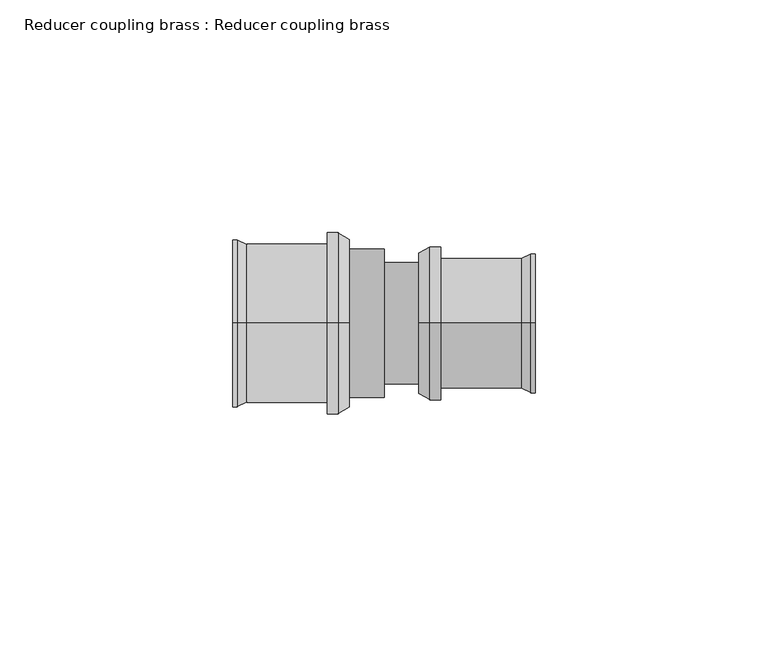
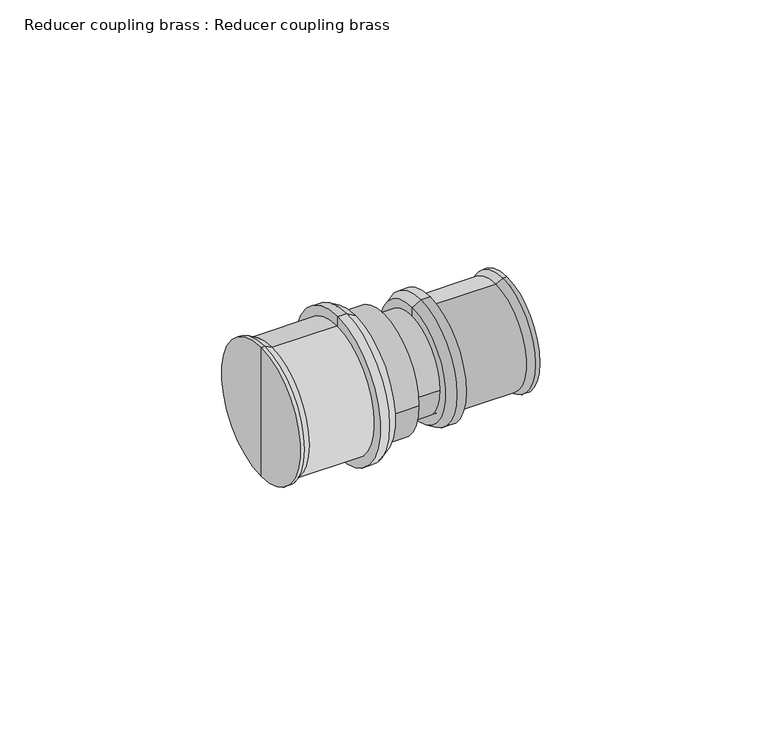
"""IFC4 building model written with IfcOpenShell, lengths in millimetres: pipe fitting geometry, Reducer coupling brass : Reducer coupling brass."""

from ifc_helpers import new_model, si_unit, point, frame, origin, origin_2d, place, context, project, spatial, polyline, circle_curve, trimmed, segment, composite_curve, outline, extrude, source, transform, mapped, element, save
from ifc_brep_helpers import plane_surface, cylinder_surface, revolved_surface, advanced_brep


def reducer_coupling_brass_reducer_coupling_brass_986997fd(model_context):
    return source(origin(), model_context, "Body", "SolidModel", [
        advanced_brep(
        [(22.5, 0.0, 0.0), (22.5, 0.0, 18.1432269), (22.5, 0.0, -18.1432269), (17.8, 0.0, -19.5), (17.8, 0.0, 19.5), (17.8, 0.0, 0.0), (20.15, 0.0, -19.5), (20.15, 0.0, 19.5)],
        [
            (0, 1),
            (1, 2, circle_curve(frame((22.5, 0.0, 0.0), z_axis=(1.0, 0.0, 0.0), x_axis=(0.0, 0.0, 1.0)), 18.1432269)),
            (2, 0),
            (2, 1, circle_curve(frame((22.5, 0.0, 0.0), z_axis=(1.0, 0.0, 0.0), x_axis=(0.0, 0.0, 1.0)), 18.1432269)),
            (3, 4, circle_curve(frame((17.8, 0.0, 0.0), z_axis=(-1.0, 0.0, 0.0), x_axis=(0.0, 0.0, 1.0)), 19.5)),
            (4, 5),
            (5, 3),
            (4, 3, circle_curve(frame((17.8, 0.0, 0.0), z_axis=(-1.0, 0.0, 0.0), x_axis=(0.0, 0.0, 1.0)), 19.5)),
            (6, 7, circle_curve(frame((20.15, 0.0, 0.0), z_axis=(-1.0, 0.0, 0.0), x_axis=(0.0, 0.0, 1.0)), 19.5)),
            (7, 4),
            (3, 6),
            (7, 6, circle_curve(frame((20.15, 0.0, 0.0), z_axis=(-1.0, 0.0, 0.0), x_axis=(0.0, 0.0, 1.0)), 19.5)),
            (1, 7),
            (6, 2),
        ],
        [
            plane_surface(frame((22.5, 0.0, 0.0), z_axis=(1.0, 0.0, 0.0), x_axis=(0.0, 0.0, 1.0))),
            plane_surface(frame((17.8, 0.0, 0.0), z_axis=(-1.0, 0.0, 0.0), x_axis=(0.0, 0.0, 1.0))),
            cylinder_surface(frame((21.5, 0.0, 0.0), z_axis=(1.0, 0.0, 0.0), x_axis=(0.0, 0.0, 1.0)), 19.5),
            revolved_surface(polyline([(20.15, 0.0, 19.5), (22.5, 0.0, 18.1432269)]), (21.5, 0.0, 0.0), (1.0, 0.0, 0.0)),
        ],
        [
            (0, [[1, 2, 3]]),
            (0, [[-3, 4, -1]]),
            (1, [[5, 6, 7]]),
            (1, [[8, -7, -6]]),
            (2, [[9, 10, -5, 11]]),
            (2, [[12, -11, -8, -10]]),
            (3, [[-2, 13, -9, 14]]),
            (3, [[-4, -14, -12, -13]]),
        ],
    ),
        advanced_brep(
        [(17.8, 0.0, -17.0), (17.8, 0.0, 17.0), (0.5, 0.0, 17.0), (0.5, 0.0, -17.0), (-2.5, 0.0, -18.0), (-2.5, 0.0, 18.0), (-2.5, 0.0, 0.0), (17.8, 0.0, 0.0), (-1.5, 0.0, -18.0), (-1.5, 0.0, 18.0)],
        [
            (0, 1, circle_curve(frame((17.8, 0.0, 0.0), z_axis=(-1.0, 0.0, 0.0), x_axis=(0.0, 0.0, 1.0)), 17.0)),
            (1, 2),
            (2, 3, circle_curve(frame((0.5, 0.0, 0.0), z_axis=(1.0, 0.0, 0.0), x_axis=(0.0, 0.0, 1.0)), 17.0)),
            (3, 0),
            (1, 0, circle_curve(frame((17.8, 0.0, 0.0), z_axis=(-1.0, 0.0, 0.0), x_axis=(0.0, 0.0, 1.0)), 17.0)),
            (3, 2, circle_curve(frame((0.5, 0.0, 0.0), z_axis=(1.0, 0.0, 0.0), x_axis=(0.0, 0.0, 1.0)), 17.0)),
            (4, 5, circle_curve(frame((-2.5, 0.0, 0.0), z_axis=(-1.0, 0.0, 0.0), x_axis=(0.0, 0.0, 1.0)), 18.0)),
            (5, 6),
            (6, 4),
            (5, 4, circle_curve(frame((-2.5, 0.0, 0.0), z_axis=(-1.0, 0.0, 0.0), x_axis=(0.0, 0.0, 1.0)), 18.0)),
            (7, 1),
            (0, 7),
            (8, 9, circle_curve(frame((-1.5, 0.0, 0.0), z_axis=(-1.0, 0.0, 0.0), x_axis=(0.0, 0.0, 1.0)), 18.0)),
            (9, 5),
            (4, 8),
            (9, 8, circle_curve(frame((-1.5, 0.0, 0.0), z_axis=(-1.0, 0.0, 0.0), x_axis=(0.0, 0.0, 1.0)), 18.0)),
            (2, 9),
            (8, 3),
        ],
        [
            cylinder_surface(frame((1933.3038476, 0.0, 0.0), z_axis=(1.0, 0.0, 0.0), x_axis=(0.0, 0.0, 1.0)), 17.0),
            plane_surface(frame((-2.5, 0.0, 0.0), z_axis=(-1.0, 0.0, 0.0), x_axis=(0.0, 0.0, 1.0))),
            plane_surface(frame((17.8, 0.0, 0.0), z_axis=(1.0, 0.0, 0.0), x_axis=(0.0, 0.0, 1.0))),
            cylinder_surface(frame((1933.3038476, 0.0, 0.0), z_axis=(1.0, 0.0, 0.0), x_axis=(0.0, 0.0, 1.0)), 18.0),
            revolved_surface(polyline([(-1.5, 0.0, 18.0), (0.5, 0.0, 17.0)]), (1933.3038476, 0.0, 0.0), (1.0, 0.0, 0.0)),
        ],
        [
            (0, [[1, 2, 3, 4]]),
            (0, [[5, -4, 6, -2]]),
            (1, [[7, 8, 9]]),
            (1, [[10, -9, -8]]),
            (2, [[11, -1, 12]]),
            (2, [[-12, -5, -11]]),
            (3, [[13, 14, -7, 15]]),
            (3, [[16, -15, -10, -14]]),
            (4, [[-3, 17, -13, 18]]),
            (4, [[-6, -18, -16, -17]]),
        ],
    ),
        advanced_brep(
        [(37.5, 0.0, 0.0), (37.5, 0.0, -15.1432269), (37.5, 0.0, 15.1432269), (42.2, 0.0, 16.5), (42.2, 0.0, -16.5), (42.2, 0.0, 0.0), (39.85, 0.0, 16.5), (39.85, 0.0, -16.5)],
        [
            (0, 1),
            (1, 2, circle_curve(frame((37.5, 0.0, 0.0), z_axis=(-1.0, 0.0, 0.0), x_axis=(0.0, 0.0, -1.0)), 15.1432269)),
            (2, 0),
            (2, 1, circle_curve(frame((37.5, 0.0, 0.0), z_axis=(-1.0, 0.0, 0.0), x_axis=(0.0, 0.0, -1.0)), 15.1432269)),
            (3, 4, circle_curve(frame((42.2, 0.0, 0.0), z_axis=(1.0, 0.0, 0.0), x_axis=(0.0, 0.0, -1.0)), 16.5)),
            (4, 5),
            (5, 3),
            (4, 3, circle_curve(frame((42.2, 0.0, 0.0), z_axis=(1.0, 0.0, 0.0), x_axis=(0.0, 0.0, -1.0)), 16.5)),
            (6, 7, circle_curve(frame((39.85, 0.0, 0.0), z_axis=(1.0, 0.0, 0.0), x_axis=(0.0, 0.0, -1.0)), 16.5)),
            (7, 4),
            (3, 6),
            (7, 6, circle_curve(frame((39.85, 0.0, 0.0), z_axis=(1.0, 0.0, 0.0), x_axis=(0.0, 0.0, -1.0)), 16.5)),
            (1, 7),
            (6, 2),
        ],
        [
            plane_surface(frame((37.5, 0.0, 0.0), z_axis=(-1.0, 0.0, 0.0), x_axis=(0.0, 0.0, -1.0))),
            plane_surface(frame((42.2, 0.0, 0.0), z_axis=(1.0, 0.0, 0.0), x_axis=(0.0, 0.0, -1.0))),
            cylinder_surface(frame((38.5, 0.0, 0.0), z_axis=(-1.0, 0.0, 0.0), x_axis=(0.0, 0.0, -1.0)), 16.5),
            revolved_surface(polyline([(39.85, 0.0, -16.5), (37.5, 0.0, -15.1432269)]), (38.5, 0.0, 0.0), (-1.0, 0.0, 0.0)),
        ],
        [
            (0, [[1, 2, 3]]),
            (0, [[-3, 4, -1]]),
            (1, [[5, 6, 7]]),
            (1, [[8, -7, -6]]),
            (2, [[9, 10, -5, 11]]),
            (2, [[12, -11, -8, -10]]),
            (3, [[-2, 13, -9, 14]]),
            (3, [[-4, -14, -12, -13]]),
        ],
    ),
        advanced_brep(
        [(42.2, 0.0, 14.0), (42.2, 0.0, -14.0), (59.5, 0.0, -14.0), (59.5, 0.0, 14.0), (62.5, 0.0, 15.0), (62.5, 0.0, -15.0), (62.5, 0.0, 0.0), (42.2, 0.0, 0.0), (61.5, 0.0, 15.0), (61.5, 0.0, -15.0)],
        [
            (0, 1, circle_curve(frame((42.2, 0.0, 0.0), z_axis=(1.0, 0.0, 0.0), x_axis=(0.0, 0.0, -1.0)), 14.0)),
            (1, 2),
            (2, 3, circle_curve(frame((59.5, 0.0, 0.0), z_axis=(-1.0, 0.0, 0.0), x_axis=(0.0, 0.0, -1.0)), 14.0)),
            (3, 0),
            (1, 0, circle_curve(frame((42.2, 0.0, 0.0), z_axis=(1.0, 0.0, 0.0), x_axis=(0.0, 0.0, -1.0)), 14.0)),
            (3, 2, circle_curve(frame((59.5, 0.0, 0.0), z_axis=(-1.0, 0.0, 0.0), x_axis=(0.0, 0.0, -1.0)), 14.0)),
            (4, 5, circle_curve(frame((62.5, 0.0, 0.0), z_axis=(1.0, 0.0, 0.0), x_axis=(0.0, 0.0, -1.0)), 15.0)),
            (5, 6),
            (6, 4),
            (5, 4, circle_curve(frame((62.5, 0.0, 0.0), z_axis=(1.0, 0.0, 0.0), x_axis=(0.0, 0.0, -1.0)), 15.0)),
            (7, 1),
            (0, 7),
            (8, 9, circle_curve(frame((61.5, 0.0, 0.0), z_axis=(1.0, 0.0, 0.0), x_axis=(0.0, 0.0, -1.0)), 15.0)),
            (9, 5),
            (4, 8),
            (9, 8, circle_curve(frame((61.5, 0.0, 0.0), z_axis=(1.0, 0.0, 0.0), x_axis=(0.0, 0.0, -1.0)), 15.0)),
            (2, 9),
            (8, 3),
        ],
        [
            cylinder_surface(frame((-1873.3038476, 0.0, 0.0), z_axis=(-1.0, 0.0, 0.0), x_axis=(0.0, 0.0, -1.0)), 14.0),
            plane_surface(frame((62.5, 0.0, 0.0), z_axis=(1.0, 0.0, 0.0), x_axis=(0.0, 0.0, -1.0))),
            plane_surface(frame((42.2, 0.0, 0.0), z_axis=(-1.0, 0.0, 0.0), x_axis=(0.0, 0.0, -1.0))),
            cylinder_surface(frame((-1873.3038476, 0.0, 0.0), z_axis=(-1.0, 0.0, 0.0), x_axis=(0.0, 0.0, -1.0)), 15.0),
            revolved_surface(polyline([(61.5, 0.0, -15.0), (59.5, 0.0, -14.0)]), (-1873.3038476, 0.0, 0.0), (-1.0, 0.0, 0.0)),
        ],
        [
            (0, [[1, 2, 3, 4]]),
            (0, [[5, -4, 6, -2]]),
            (1, [[7, 8, 9]]),
            (1, [[10, -9, -8]]),
            (2, [[11, -1, 12]]),
            (2, [[-12, -5, -11]]),
            (3, [[13, 14, -7, 15]]),
            (3, [[16, -15, -10, -14]]),
            (4, [[-3, 17, -13, 18]]),
            (4, [[-6, -18, -16, -17]]),
        ],
    ),
        extrude(outline(composite_curve([segment(trimmed(circle_curve(origin_2d(), 13.0), [point((-13.0, 0.0))], [point((13.0, 0.0))], False, "CARTESIAN"), True, "CONTINUOUS"), segment(trimmed(circle_curve(origin_2d(), 13.0), [point((13.0, 0.0))], [point((-13.0, 0.0))], False, "CARTESIAN"), True, "CONTINUOUS")], self_intersect=False)), frame((30.0, 0.0, 0.0), z_axis=(1.0, 0.0, 0.0), x_axis=(0.0, 1.0, 0.0)), (0.0, 0.0, 1.0), 8.5),
        extrude(outline(composite_curve([segment(trimmed(circle_curve(origin_2d(), 16.0), [point((-16.0, 0.0))], [point((16.0, 0.0))], False, "CARTESIAN"), True, "CONTINUOUS"), segment(trimmed(circle_curve(origin_2d(), 16.0), [point((16.0, 0.0))], [point((-16.0, 0.0))], False, "CARTESIAN"), True, "CONTINUOUS")], self_intersect=False)), frame((21.5, 0.0, 0.0), z_axis=(1.0, 0.0, 0.0), x_axis=(0.0, 1.0, 0.0)), (0.0, 0.0, 1.0), 8.5),
    ])


if __name__ == "__main__":
    model = new_model("IFC4")
    model_context = context("Model", 3, world=origin())
    ifc_project = project(units=[si_unit("LENGTHUNIT", "METRE", prefix="MILLI")], contexts=[model_context])
    site = spatial("IfcSite", under=ifc_project)
    building = spatial("IfcBuilding", under=site)
    placement = place(None, origin())
    reducer_coupling_brass_reducer_coupling_brass_shape = reducer_coupling_brass_reducer_coupling_brass_986997fd(model_context)
    element("IfcPipeFitting", 1, ObjectType="Reducer coupling brass : Reducer coupling brass", at=placement, inside=building, context=model_context, shape_type="MappedRepresentation", body=[
        mapped(reducer_coupling_brass_reducer_coupling_brass_shape, transform((0.0, 0.0, 0.0), x_axis=(1.0, 0.0, 0.0), y_axis=(0.0, 1.0, 0.0), z_axis=(0.0, 0.0, 1.0))),
    ])
    save(model, "model.ifc")
